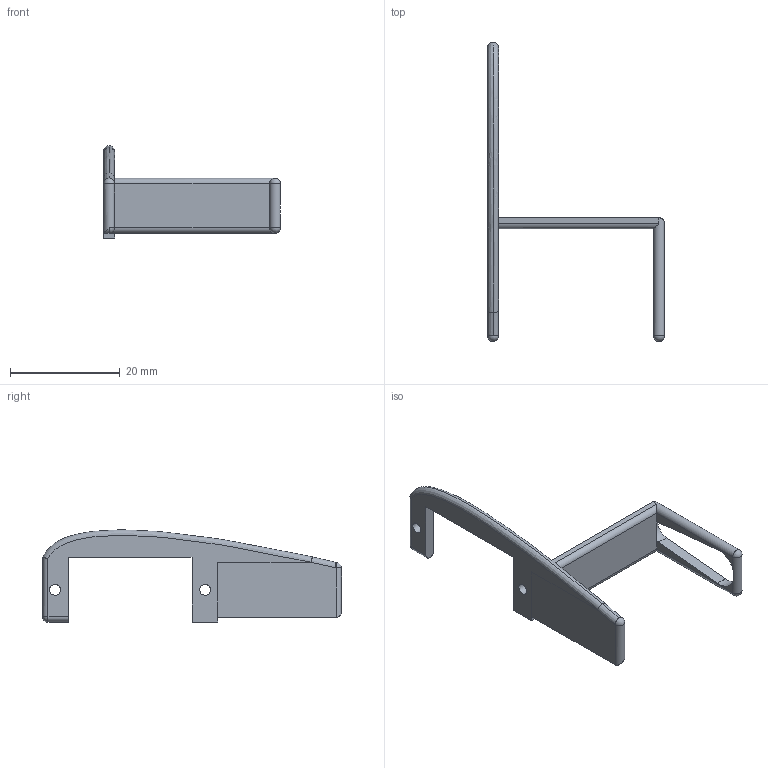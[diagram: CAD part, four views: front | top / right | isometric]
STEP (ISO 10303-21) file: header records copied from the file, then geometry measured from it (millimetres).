
FILE_DESCRIPTION(/* description */ ('STEP AP242 Edition 2','CAx-IF Rec.Pracs.---Representation and Presentation of Product Manufacturing Information (PMI)---4.0---2014-10-13','CAx-IF Rec.Pracs.---3D Tessellated Geometry---0.4---2014-09-14','2;1','CAx-IF Rec.Pracs.---User Defined Attributes---1.5---2016-08-15'),/* implementation_level */ '2;1');
FILE_NAME(/* name */ 'Assembly 1 - Part 1 (113)',/* time_stamp */ '2026-06-04T16:20:00Z',/* author */ (''),/* organization */ (''),/* preprocessor_version */ 'ST-DEVELOPER v20',/* originating_system */ 'ONSHAPE BY PTC INC, 1.215',/* authorisation */ ' ');
FILE_SCHEMA (('AP242_MANAGED_MODEL_BASED_3D_ENGINEERING_MIM_LF { 1 0 10303 442 3 1 4 }'));
Length unit declared in the file: metre
Products named in the file (1): Part 1
Bounding box: 32.2 x 54.4 x 16.82 mm (x, y, z)
Volume: 1718.5 mm3; surface area: 2286.7 mm2
Topology: 1 solids, 1 shells, 50 faces, 129 edges, 73 vertices
Faces by surface type: plane 20, cylinder 20, sphere 6, bspline 4
Full cylindrical faces by diameter (mm): 2 x2
Entity records: 1627 total; most frequent: CARTESIAN_POINT 459, ORIENTED_EDGE 238, DIRECTION 236, EDGE_CURVE 119, AXIS2_PLACEMENT_3D 85, VERTEX_POINT 71, LINE 66, VECTOR 66
